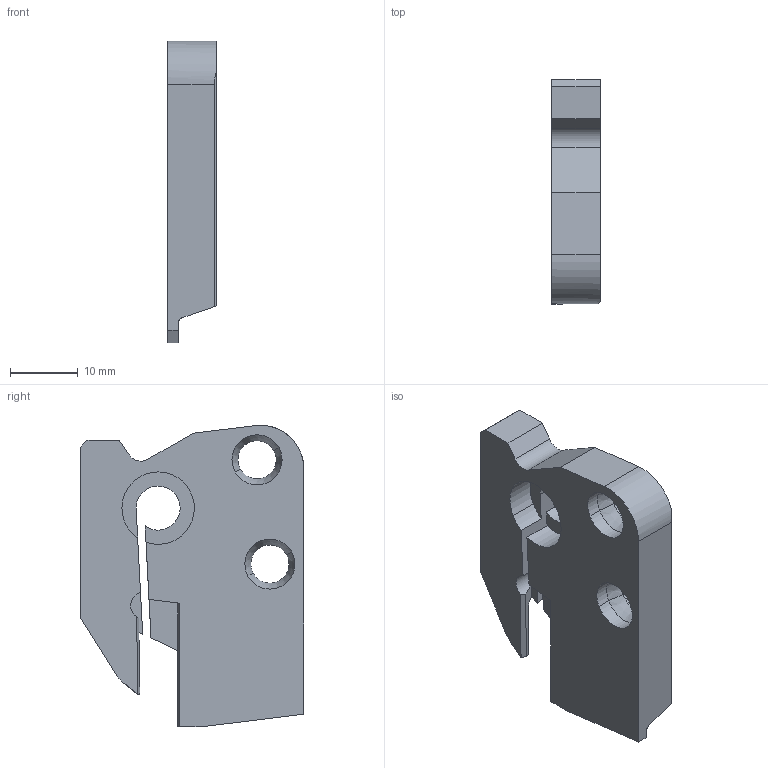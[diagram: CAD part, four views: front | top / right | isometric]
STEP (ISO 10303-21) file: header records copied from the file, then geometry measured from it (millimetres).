
FILE_DESCRIPTION(('CATIA V5 STEP','CAx-IF Rec.Pracs.--- Model Styling and Organization---1.2---2011-12-15'),'2;1');
FILE_NAME('N:\data\isr\design\special1\users\NATALY_B\Germany\Thomas\07_09\DGPAD 2R-D22-JHP.stp','2015-09-07T14:23:00+00:00',('none'),('none'),'CATIA Version 5 Release 21 SP 5 (IN-10)','CATIA V5 STEP AP214','none');
FILE_SCHEMA(('AUTOMOTIVE_DESIGN { 1 0 10303 214 1 1 1 1 }'));
Length unit declared in the file: millimetre
Products named in the file (1): DGPAD 2R-D22-JHP 
Bounding box: 7.2 x 33 x 44.49 mm (x, y, z)
Volume: 6638.3 mm3; surface area: 3896.9 mm2
Topology: 1 solids, 1 shells, 71 faces, 193 edges, 124 vertices
Faces by surface type: plane 31, cylinder 26, cone 6, revolution 4, torus 2, extrusion 2
Entity records: 2374 total; most frequent: CARTESIAN_POINT 677, ORIENTED_EDGE 382, DIRECTION 272, EDGE_CURVE 191, VERTEX_POINT 124, VECTOR 112, LINE 110, AXIS2_PLACEMENT_3D 107
